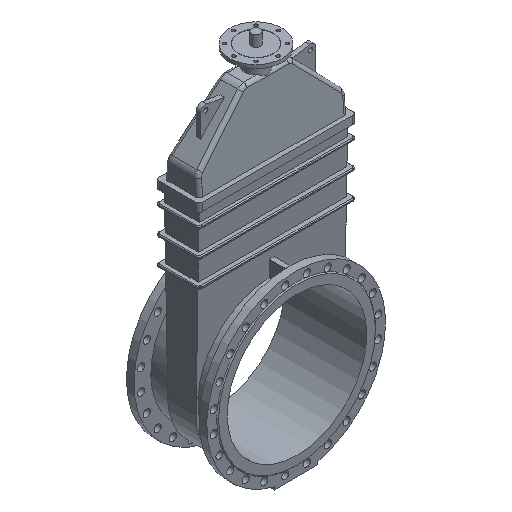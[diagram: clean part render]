
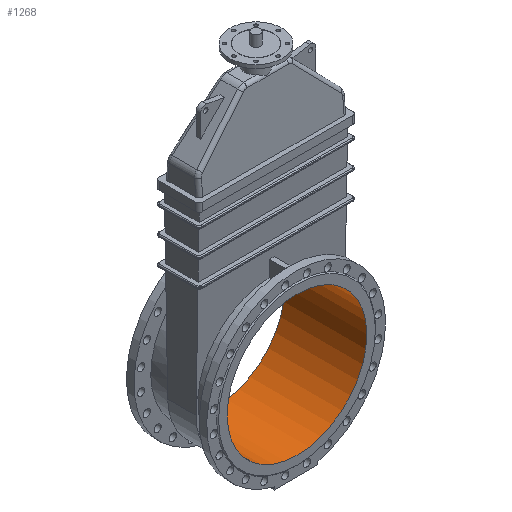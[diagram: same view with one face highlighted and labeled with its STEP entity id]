
A CAD part, isometric view. The second image highlights one B-rep face of the part: STEP entity #1268.
In plain terms, the highlighted cylindrical face has radius 400 mm (diameter 800 mm), a full revolution.
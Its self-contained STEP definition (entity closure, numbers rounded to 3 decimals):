
#1268=ADVANCED_FACE('',(#4488,#4490),#4492,.F.);
#4488=FACE_OUTER_BOUND('',#4489,.T.);
#4489=EDGE_LOOP('',(#7595));
#4490=FACE_OUTER_BOUND('',#4491,.T.);
#4491=EDGE_LOOP('',(#7596));
#4492=CYLINDRICAL_SURFACE('',#4493,400.);
#4493=AXIS2_PLACEMENT_3D('',#4494,#4495,#4496);
#4494=CARTESIAN_POINT('',(0.,235.,0.));
#4495=DIRECTION('',(0.,1.,0.));
#4496=DIRECTION('',(0.,0.,1.));
#7595=ORIENTED_EDGE('',*,*,#8526,.T.);
#7596=ORIENTED_EDGE('',*,*,#8525,.F.);
#8525=EDGE_CURVE('',#9449,#9449,#9450,.T.);
#8526=EDGE_CURVE('',#9451,#9451,#9452,.T.);
#9449=VERTEX_POINT('',#11541);
#9450=CIRCLE('',#11542,400.);
#9451=VERTEX_POINT('',#11546);
#9452=CIRCLE('',#11547,400.);
#11541=CARTESIAN_POINT('',(0.,-235.,400.));
#11542=AXIS2_PLACEMENT_3D('',#11543,#11544,#11545);
#11543=CARTESIAN_POINT('',(0.,-235.,0.));
#11544=DIRECTION('',(0.,1.,0.));
#11545=DIRECTION('',(0.,0.,1.));
#11546=CARTESIAN_POINT('',(0.,235.,400.));
#11547=AXIS2_PLACEMENT_3D('',#11548,#11549,#11550);
#11548=CARTESIAN_POINT('',(0.,235.,0.));
#11549=DIRECTION('',(0.,1.,0.));
#11550=DIRECTION('',(0.,0.,1.));
